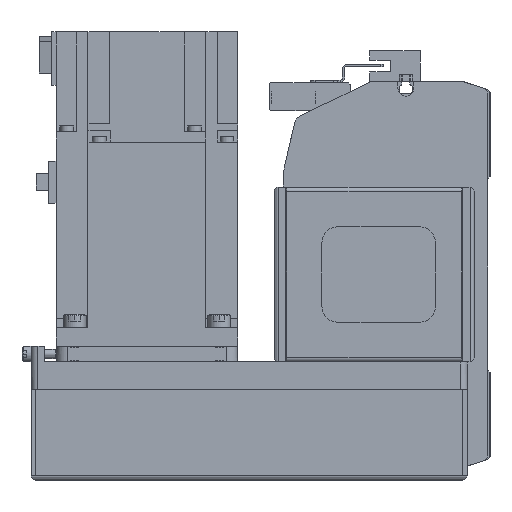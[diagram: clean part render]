
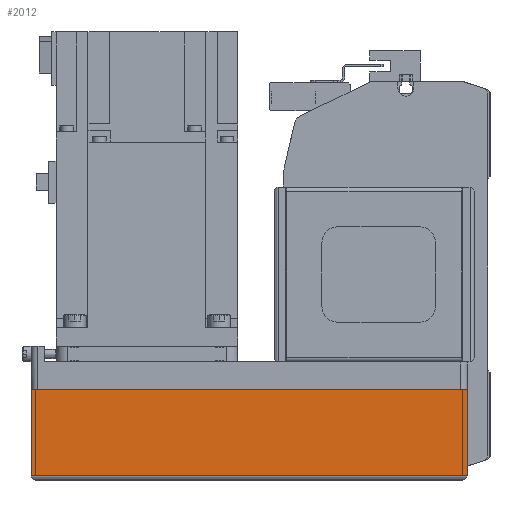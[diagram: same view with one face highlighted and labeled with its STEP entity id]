
A CAD part, left-side view. The second image highlights one B-rep face of the part: STEP entity #2012.
In plain terms, the highlighted planar face has unit normal (-1, 0, 0) as drawn and (0, -1, 0) by its records, which use the part's own axes.
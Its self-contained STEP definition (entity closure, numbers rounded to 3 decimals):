
#2012 = ADVANCED_FACE( '', ( #4680 ), #4681, .T. );
#4680 = FACE_OUTER_BOUND( '', #8112, .T. );
#4681 = PLANE( '', #8113 );
#8112 = EDGE_LOOP( '', ( #13640, #13641, #13642, #13643 ) );
#8113 = AXIS2_PLACEMENT_3D( '', #13644, #13645, #13646 );
#13640 = ORIENTED_EDGE( '', *, *, #20179, .F. );
#13641 = ORIENTED_EDGE( '', *, *, #19930, .F. );
#13642 = ORIENTED_EDGE( '', *, *, #21345, .T. );
#13643 = ORIENTED_EDGE( '', *, *, #21346, .T. );
#13644 = CARTESIAN_POINT( '', ( -192., -40., -12.1 ) );
#13645 = DIRECTION( '', ( 0., -1., 0. ) );
#13646 = DIRECTION( '', ( 0., 0., -1. ) );
#19930 = EDGE_CURVE( '', #23907, #23908, #23909, .T. );
#20179 = EDGE_CURVE( '', #23908, #24104, #24335, .T. );
#21345 = EDGE_CURVE( '', #23907, #26207, #26208, .T. );
#21346 = EDGE_CURVE( '', #26207, #24104, #26209, .T. );
#23907 = VERTEX_POINT( '', #29634 );
#23908 = VERTEX_POINT( '', #29635 );
#23909 = LINE( '', #29636, #29637 );
#24104 = VERTEX_POINT( '', #29936 );
#24335 = LINE( '', #30274, #30275 );
#26207 = VERTEX_POINT( '', #33187 );
#26208 = LINE( '', #33188, #33189 );
#26209 = LINE( '', #33190, #33191 );
#29634 = CARTESIAN_POINT( '', ( -192., -40., -12.1 ) );
#29635 = CARTESIAN_POINT( '', ( 0., -40., -12.1 ) );
#29636 = CARTESIAN_POINT( '', ( -192., -40., -12.1 ) );
#29637 = VECTOR( '', #37037, 1000. );
#29936 = CARTESIAN_POINT( '', ( 0., -40., -50. ) );
#30274 = CARTESIAN_POINT( '', ( 0., -40., -12.1 ) );
#30275 = VECTOR( '', #37355, 1000. );
#33187 = CARTESIAN_POINT( '', ( -192., -40., -50. ) );
#33188 = CARTESIAN_POINT( '', ( -192., -40., -12.1 ) );
#33189 = VECTOR( '', #38797, 1000. );
#33190 = CARTESIAN_POINT( '', ( -192., -40., -50. ) );
#33191 = VECTOR( '', #38798, 1000. );
#37037 = DIRECTION( '', ( 1., 0., 0. ) );
#37355 = DIRECTION( '', ( 0., 0., -1. ) );
#38797 = DIRECTION( '', ( 0., 0., -1. ) );
#38798 = DIRECTION( '', ( 1., 0., 0. ) );
